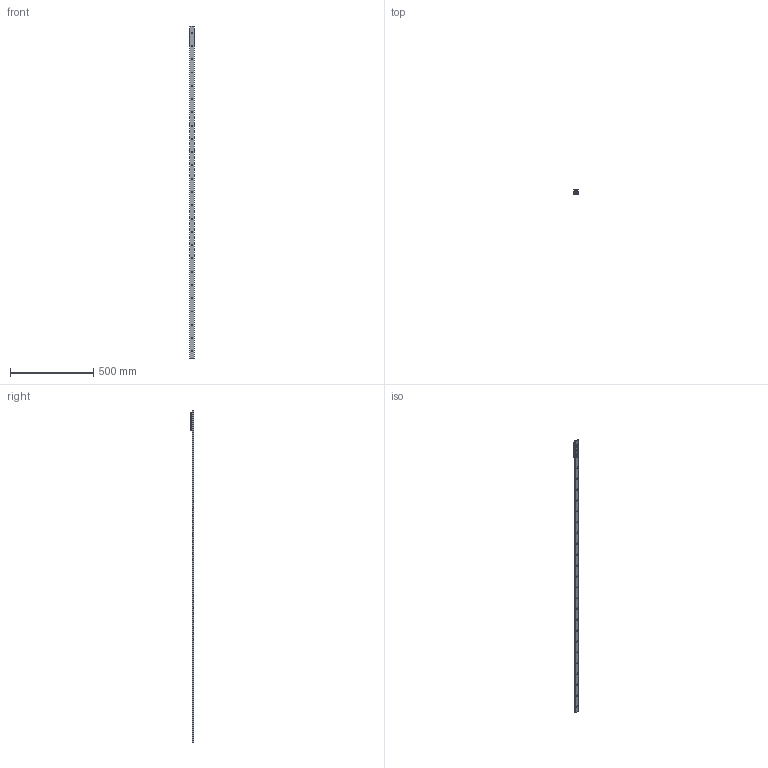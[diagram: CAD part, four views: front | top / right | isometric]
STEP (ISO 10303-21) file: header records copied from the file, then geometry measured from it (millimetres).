
FILE_DESCRIPTION( ( 'STEP AP214' ), '1' );
FILE_NAME( 'p:/temp/worker_24/temp/exporttempdir_3672_35_Dq4ul/format_0/TGV-02000_1_RV28G-3.stp', '2020-11-20T16:37:37', ( 'License CC BY-ND 4.0' ), ( 'CADENAS' ), ' ', 'PARTsolutions', ' ' );
FILE_SCHEMA( ( 'AUTOMOTIVE_DESIGN { 1 0 10303 214 1 1 1 1 }' ) );
Length unit declared in the file: millimetre
Products named in the file (6): TGV-02000/1/RV28G-3; _TGV28-2000-(3-1); _RV28G-3-slider; _RGNV28R; _RGAV28R; _WR28G-01
Assembly tree (7 placements, depth 2):
  TGV-02000/1/RV28G-3
    _TGV28-2000-(3-1)
    _RV28G-3-slider
    _RGNV28R  x2
    _RGAV28R
    _WR28G-01  x2
Bounding box: 28 x 24 x 2000 mm (x, y, z)
Volume: 325251.7 mm3; surface area: 208252.7 mm2
Topology: 7 solids, 7 shells, 1062 faces, 2770 edges, 1804 vertices
Faces by surface type: plane 657, cylinder 305, cone 65, bspline 26, torus 9
Full cylindrical faces by diameter (mm): 1.27 x4, 2 x2, 2.5 x6, 4 x4, 4.134 x4, 4.2 x3, 5 x3, 5.5 x3, 5.75 x25, 7 x5, 7.5 x1, 8 x6, 10.8 x3, 17 x3, 20.75 x6
Entity records: 25801 total; most frequent: CARTESIAN_POINT 4075, DIRECTION 3450, ORIENTED_EDGE 3144, EDGE_CURVE 1572, AXIS2_PLACEMENT_3D 1330, VERTEX_POINT 1104, EDGE_LOOP 941, LINE 790
